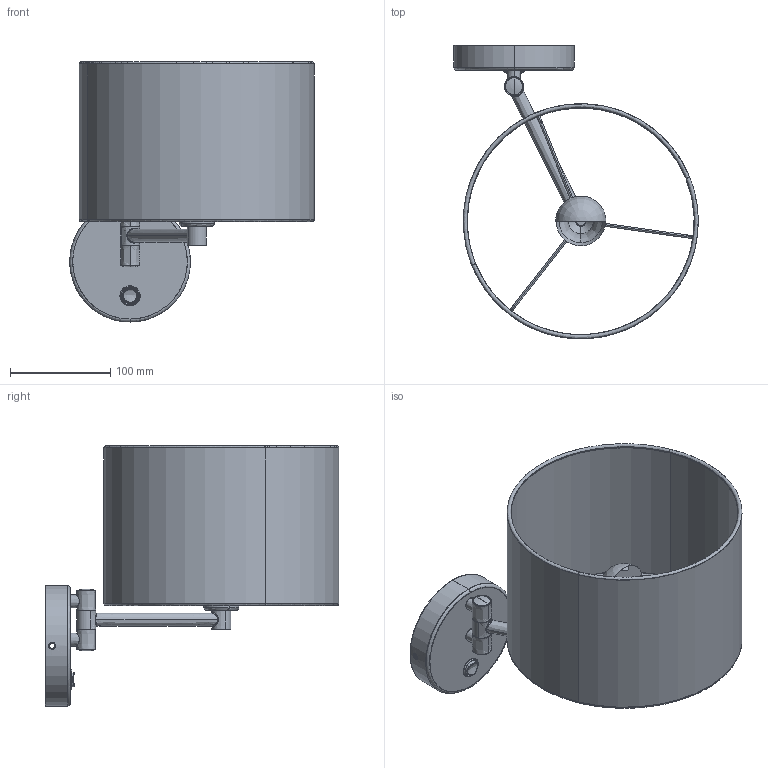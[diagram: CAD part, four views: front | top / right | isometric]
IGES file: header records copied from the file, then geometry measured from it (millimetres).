
Start section: SolidWorks IGES file using analytic representation for surfaces
Global section: file name: Z:\PRODUKT\Modele_3D_WWW\_KOLEKCJE_WWW\HOTEL\HOTEL-MOOD-11781-11788\zlozenie HOTEL-9303-8980 pm.IGS; native system: SolidWorks 2024; preprocessor: SolidWorks 2024; author: anna.bielnik; date: 250424.114542; units: millimetre
Bounding box: 243.35 x 292.44 x 258.85 mm (x, y, z)
Surface area: 324367.8 mm2 (no closed solid volume)
Topology: 0 solids, 0 shells, 146 faces, 2690 edges, 2687 vertices
Faces by surface type: bspline 75, revolution 71
